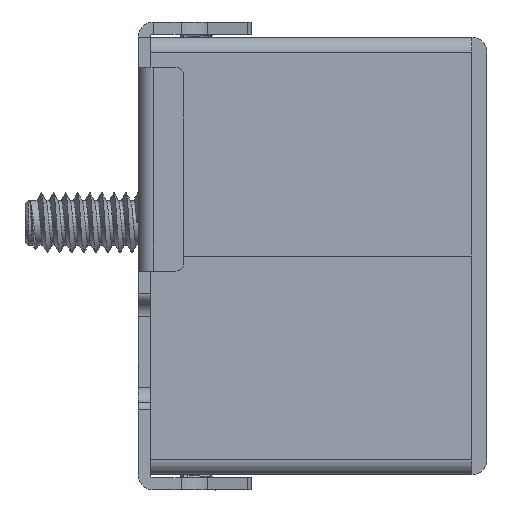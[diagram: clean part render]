
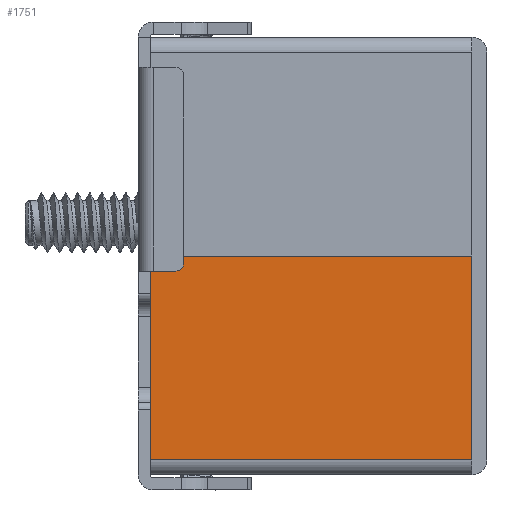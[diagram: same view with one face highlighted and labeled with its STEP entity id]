
A CAD part, left-side view. The second image highlights one B-rep face of the part: STEP entity #1751.
In plain terms, the highlighted planar face has unit normal (-1, 0, 0).
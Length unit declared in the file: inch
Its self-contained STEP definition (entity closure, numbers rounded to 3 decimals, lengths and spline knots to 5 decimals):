
#394=DIRECTION('',(0.,0.,-1.));
#395=VECTOR('',#394,0.5315);
#396=CARTESIAN_POINT('',(-1.92913,0.87795,0.));
#397=LINE('',#396,#395);
#551=DIRECTION('',(0.,0.,1.));
#552=VECTOR('',#551,0.5315);
#553=CARTESIAN_POINT('',(-1.92913,0.03937,
-0.5315));
#554=LINE('',#553,#552);
#565=DIRECTION('',(0.,1.,0.));
#566=VECTOR('',#565,0.83858);
#567=CARTESIAN_POINT('',(-1.92913,0.03937,0.));
#568=LINE('',#567,#566);
#579=DIRECTION('',(0.,-1.,0.));
#580=VECTOR('',#579,0.83858);
#581=CARTESIAN_POINT('',(-1.92913,0.87795,
-0.5315));
#582=LINE('',#581,#580);
#1024=CARTESIAN_POINT('',(-1.92913,0.03937,0.));
#1025=CARTESIAN_POINT('',(-1.92913,0.87795,0.));
#1026=VERTEX_POINT('',#1024);
#1027=VERTEX_POINT('',#1025);
#1028=CARTESIAN_POINT('',(-1.92913,0.03937,
-0.5315));
#1029=VERTEX_POINT('',#1028);
#1030=CARTESIAN_POINT('',(-1.92913,0.87795,
-0.5315));
#1031=VERTEX_POINT('',#1030);
#1738=CARTESIAN_POINT('',(-1.92913,0.87795,
-0.57087));
#1739=DIRECTION('',(1.,0.,0.));
#1740=DIRECTION('',(0.,1.,0.));
#1741=AXIS2_PLACEMENT_3D('',#1738,#1739,#1740);
#1742=PLANE('',#1741);
#1743=ORIENTED_EDGE('',*,*,#1581,.F.);
#1745=ORIENTED_EDGE('',*,*,#1744,.F.);
#1746=ORIENTED_EDGE('',*,*,#1721,.F.);
#1748=ORIENTED_EDGE('',*,*,#1747,.F.);
#1749=EDGE_LOOP('',(#1743,#1745,#1746,#1748));
#1750=FACE_OUTER_BOUND('',#1749,.F.);
#1751=ADVANCED_FACE('',(#1750),#1742,.F.);
#1581=EDGE_CURVE('',#1027,#1031,#397,.T.);
#1721=EDGE_CURVE('',#1029,#1026,#554,.T.);
#1744=EDGE_CURVE('',#1026,#1027,#568,.T.);
#1747=EDGE_CURVE('',#1031,#1029,#582,.T.);
